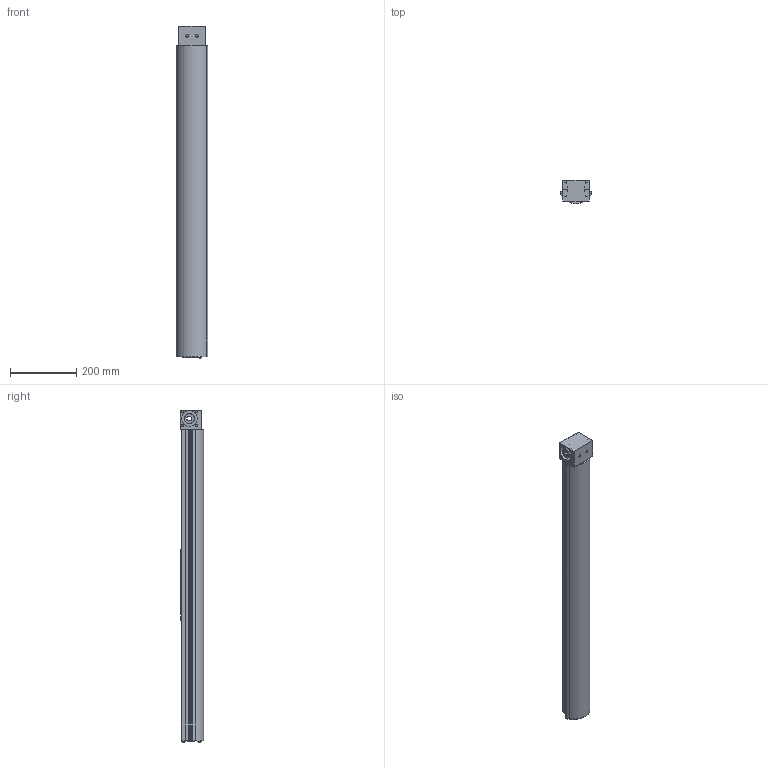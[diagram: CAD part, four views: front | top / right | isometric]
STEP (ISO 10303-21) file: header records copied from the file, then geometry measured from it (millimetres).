
FILE_DESCRIPTION (( 'STEP AP214' ), '1' );
FILE_NAME ('CLLZ60-ED.STEP', '2021-09-27T08:49:57', ( '' ), ( '' ), 'SwSTEP 2.0', 'SolidWorks 2020', '' );
FILE_SCHEMA (( 'AUTOMOTIVE_DESIGN' ));
Length unit declared in the file: millimetre
Products named in the file (5): end plate^CLLZ60-ED; Führungsschlitten LL60 - ED_carriage version 0; profil^CLLZ60-ED; timing belt reverse unit^CLLZ60-ED_coupling claw pos.1; CLLZ60-ED
Assembly tree (4 placements, depth 2):
  CLLZ60-ED
    profil^CLLZ60-ED
    timing belt reverse unit^CLLZ60-ED_coupling claw pos.1
    Führungsschlitten LL60 - ED_carriage version 0
    end plate^CLLZ60-ED
Bounding box: 96.1 x 70 x 999.96 mm (x, y, z)
Volume: 2371262.7 mm3; surface area: 809255.1 mm2
Topology: 7 solids, 7 shells, 394 faces, 985 edges, 628 vertices
Faces by surface type: plane 210, cylinder 138, cone 34, bspline 12
Entity records: 13661 total; most frequent: CARTESIAN_POINT 3634, DIRECTION 1993, ORIENTED_EDGE 1922, EDGE_CURVE 961, AXIS2_PLACEMENT_3D 679, LINE 635, VECTOR 635, VERTEX_POINT 628
